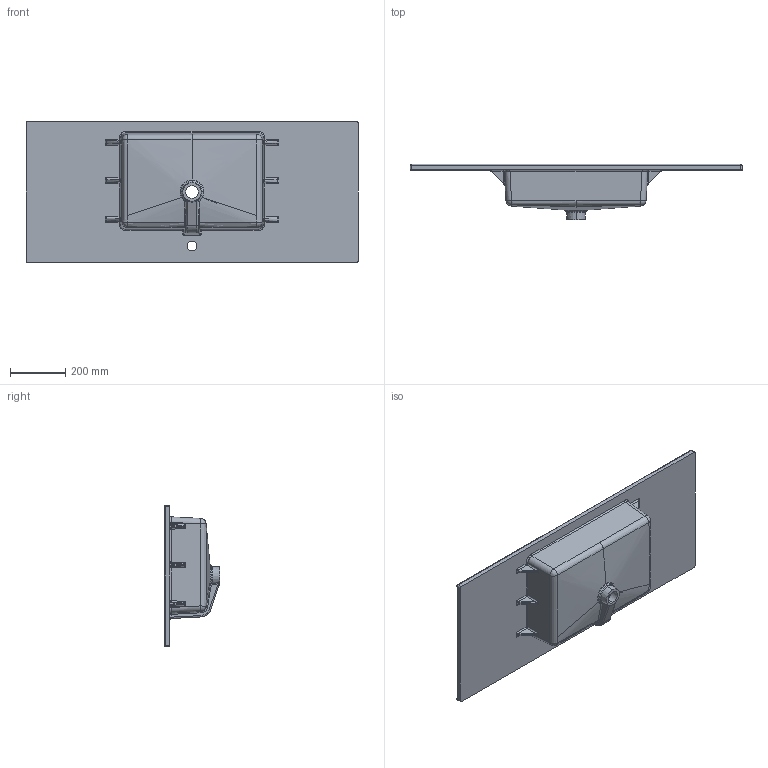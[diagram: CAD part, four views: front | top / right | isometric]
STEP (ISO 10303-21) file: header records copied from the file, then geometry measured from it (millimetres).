
FILE_DESCRIPTION (( 'STEP AP203' ), '1' );
FILE_NAME ('CALC12051T0M.STEP', '2019-02-01T09:00:48', ( '' ), ( '' ), 'SwSTEP 2.0', 'SolidWorks 2019', '' );
FILE_SCHEMA (( 'CONFIG_CONTROL_DESIGN' ));
Length unit declared in the file: millimetre
Products named in the file (1): CALC12051T0M
Bounding box: 1200 x 200 x 510 mm (x, y, z)
Volume: 12966198.2 mm3; surface area: 1713027.3 mm2
Topology: 1 solids, 1 shells, 252 faces, 594 edges, 341 vertices
Faces by surface type: bspline 88, cylinder 82, plane 40, sphere 30, torus 6, cone 6
Entity records: 19199 total; most frequent: CARTESIAN_POINT 14091, ORIENTED_EDGE 1176, DIRECTION 922, EDGE_CURVE 588, AXIS2_PLACEMENT_3D 371, VERTEX_POINT 341, EDGE_LOOP 259, ADVANCED_FACE 252
